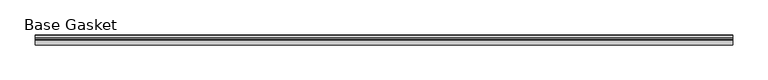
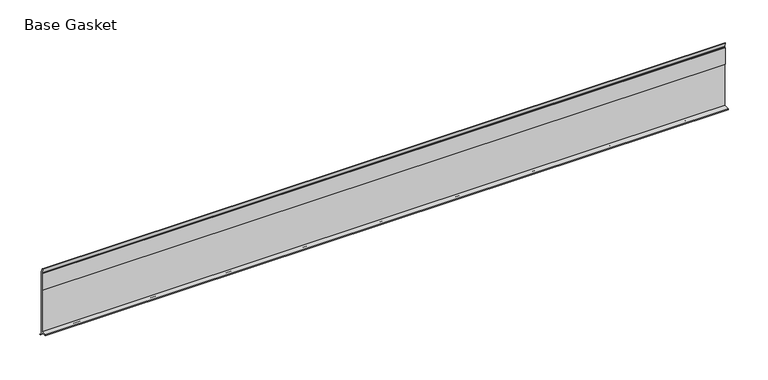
"""IFC4 building model written with IfcOpenShell, lengths in millimetres: furniture geometry, Gasket-Teknion-FHGB-AI_Healthcare-R2021 : Base Gasket."""

from ifc_helpers import new_model, si_unit, frame, origin, place, context, project, spatial, polyline, outline, extrude, source, transform, mapped, element, save


def base_gasket_4e6f92f0(model_context):
    return source(origin(), model_context, "Body", "SweptSolid", [
        extrude(outline(polyline([(3.7283812, 98.4568417), (3.7283812, 4.3498477), (7.4222115, 0.6560174), (7.8482342, 0.0), (6.8281054, 0.3520979), (2.2043812, 4.3498477), (2.1334222, 6.3818476), (-6.2405171, 6.3818476), (-6.2405171, 7.9398773), (2.2043812, 7.9398773), (2.2043812, 71.4693447), (1.4106313, 71.4693447), (1.4106313, 96.8693477), (2.2043812, 96.8693477), (2.2043812, 98.4568417), (0.6755308, 104.4162708), (0.6755308, 105.2002997), (1.1891543, 104.587663), (3.7283812, 98.4568417)])), frame((-1527.8982117, 0.0, 0.0), z_axis=(1.0, 0.0, 0.0), x_axis=(0.0, 1.0, 0.0)), (0.0, 0.0, 1.0), 990.6),
    ])


if __name__ == "__main__":
    model = new_model("IFC4")
    model_context = context("Model", 3, world=origin())
    ifc_project = project(units=[si_unit("LENGTHUNIT", "METRE", prefix="MILLI")], contexts=[model_context])
    site = spatial("IfcSite", under=ifc_project)
    building = spatial("IfcBuilding", under=site)
    placement = place(None, origin())
    base_gasket_shape = base_gasket_4e6f92f0(model_context)
    element("IfcFurniture", 1, ObjectType="Gasket-Teknion-FHGB-AI_Healthcare-R2021 : Base Gasket", at=placement, inside=building, context=model_context, shape_type="MappedRepresentation", body=[
        mapped(base_gasket_shape, transform((0.0, 0.0, 0.0), x_axis=(1.0, 0.0, 0.0), y_axis=(0.0, 1.0, 0.0), z_axis=(0.0, 0.0, 1.0))),
    ])
    save(model, "model.ifc")
